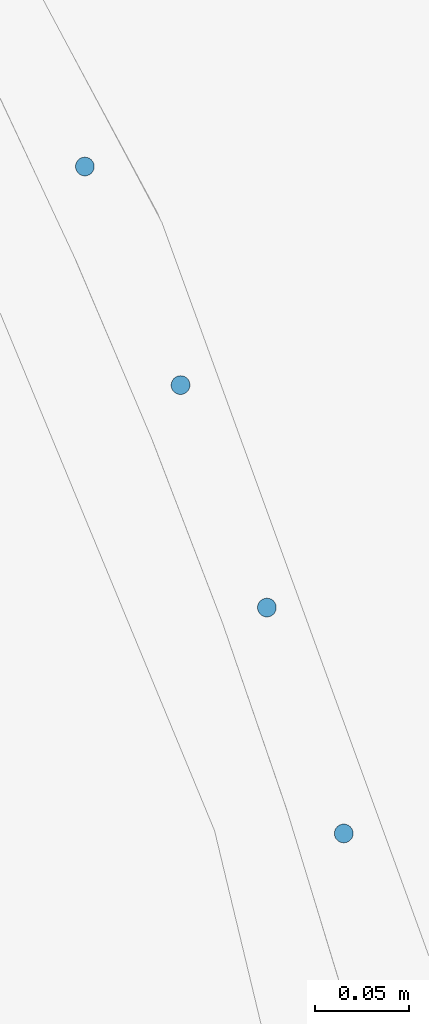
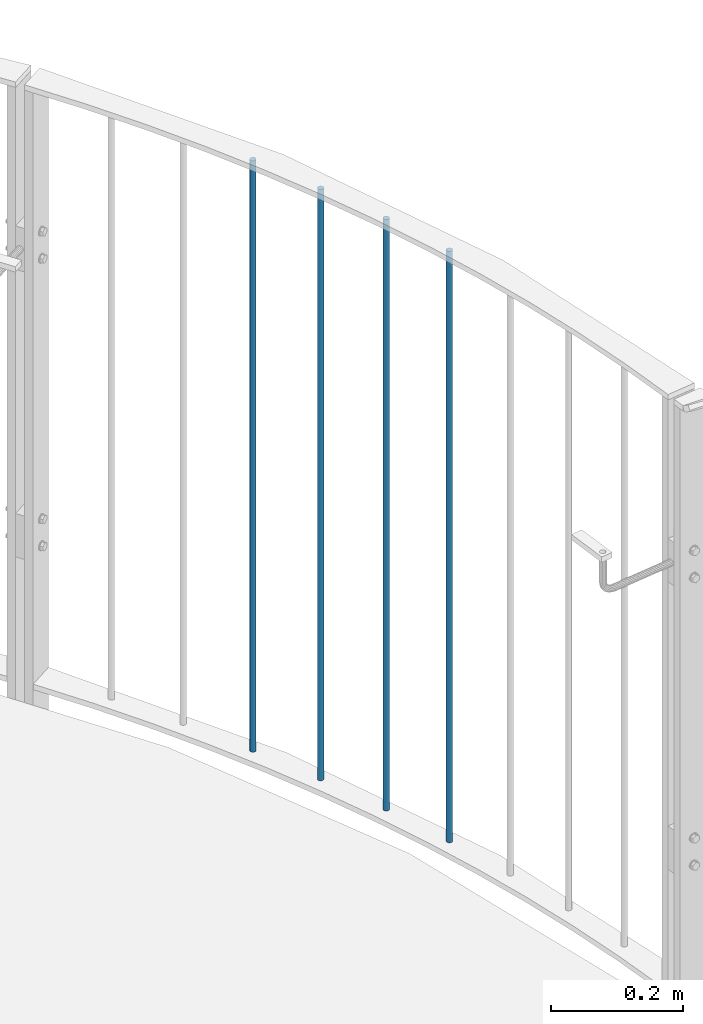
# One storey, part 79 of 296: 4 columns.
"""IFC2X3 building model written with IfcOpenShell, lengths in millimetres."""

from ifc_helpers import new_model, entity, si_unit, converted_unit, frame, origin, origin_with_axes, origin_2d, place, context, project, spatial, circle, extrude, material, element, save


model = new_model("IFC2X3")

# Units and contexts
model_context = context("Model", 3, precision=1e-09, world=origin_with_axes())
ifc_project = project(units=[si_unit("LENGTHUNIT", "METRE", prefix="MILLI"), si_unit("AREAUNIT", "SQUARE_METRE"), si_unit("VOLUMEUNIT", "CUBIC_METRE"), converted_unit("PLANEANGLEUNIT", "DEGREE", entity("IfcPlaneAngleMeasure", 0.01745329), si_unit("PLANEANGLEUNIT", "RADIAN"), dimensions=[0, 0, 0, 0, 0, 0, 0])], contexts=[model_context])

# Site, building, storey
site_placement = place(None, origin_with_axes())
site = spatial("IfcSite", under=ifc_project, at=site_placement, Name="TZD-S?d | Treppenhausgel?nder", CompositionType="ELEMENT")
building_placement = place(site_placement, origin_with_axes())
building = spatial("IfcBuilding", under=site, at=building_placement, Name="Struktur 1", CompositionType="ELEMENT")
storey_placement = place(building_placement, origin_with_axes())
storey = spatial("IfcBuildingStorey", under=building, at=storey_placement, Name="Default Storey", CompositionType="ELEMENT", Elevation=0.0)

# Columns
ifc_material = material(Name="S235JR")
for number, where, z_axis, x_axis in (
    (1, (5775.561227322, 802.43428571, 2450.0), (0.0, 0.0, -1.0), (0.0, 1.0, 0.0)),
    (2, (5734.68182338, 922.63019603, 2450.0), (0.0, 0.0, -1.0), (0.0, 1.0, 0.0)),
    (3, (5688.736821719, 1040.982379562, 2450.0), (0.0, 0.0, -1.0), (0.0, 1.0, 0.0)),
    (4, (5637.809056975, 1157.277458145, 2450.0), (0.0, 0.0, -1.0), (0.0, 1.0, 0.0)),
):
    element("IfcColumn", number, at=place(None, frame(where, z_axis=z_axis, x_axis=x_axis)), inside=storey, material=ifc_material, Name="-", ObjectType="-", context=model_context, shape_type="SweptSolid", body=[
        extrude(circle(Radius=5.0, at=origin_2d()), origin(), (0.0, 0.0, -1.0), 1090.0),
    ])

save(model, "model.ifc")
